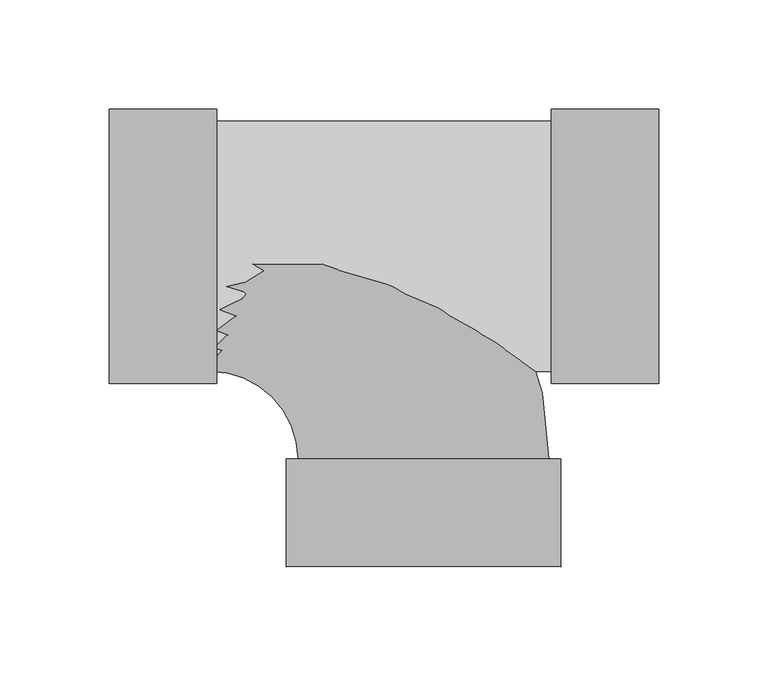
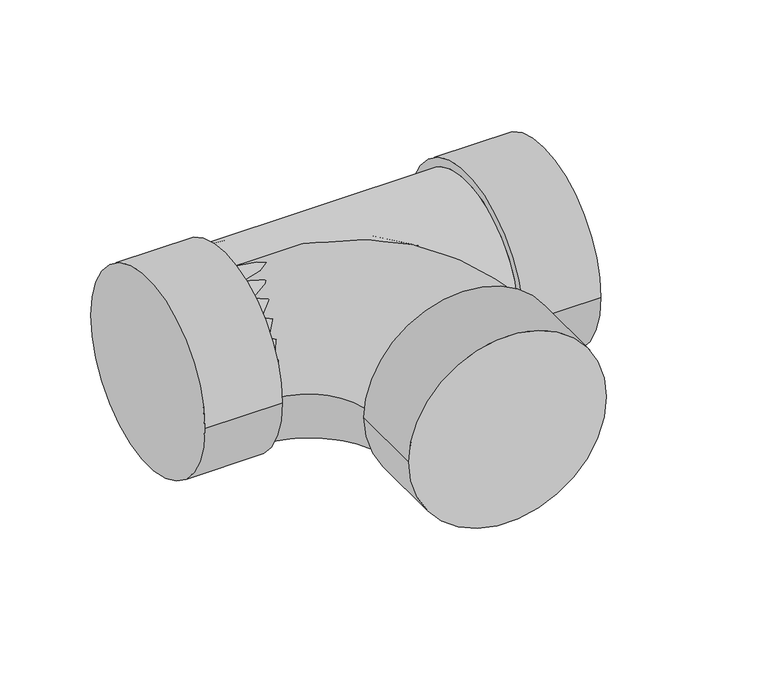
"""IFC4 building model written with IfcOpenShell, lengths in millimetres: pipe fitting geometry, M_Sanitario con te de reducción - PVC - Serie 40 - DWV : Estándar."""

from ifc_helpers import new_model, si_unit, point, frame, origin, place, context, project, spatial, circle_curve, ellipse_curve, trimmed, source, transform, mapped, element, save
from ifc_brep_helpers import plane_surface, cylinder_surface, revolved_surface, advanced_brep


def pipe_fitting_2a8dfbef(model_context):
    return source(origin(), model_context, "Body", "AdvancedBrep", [
        advanced_brep(
        [(58.601229, -62.8511094, 0.0), (58.601229, 62.8511094, 0.0), (58.601229, -57.3960625, 0.0), (58.601229, 57.3960625, 0.0), (107.8375415, -62.8511094, 0.0), (107.8375415, 62.8511094, 0.0), (-94.6584022, 57.3960625, 0.0), (-94.6584022, -57.3960625, 0.0), (-143.8947147, -62.8511094, 0.0), (-143.8947147, 62.8511094, 0.0), (-94.6584022, -62.8511094, 0.0), (-94.6584022, 62.8511094, 0.0)],
        [
            (0, 1, circle_curve(frame((58.601229, 0.0, 0.0), z_axis=(-1.0, 0.0, 0.0), x_axis=(0.0, 1.0, 0.0)), 62.8511094)),
            (1, 0, circle_curve(frame((58.601229, 0.0, 0.0), z_axis=(-1.0, 0.0, 0.0), x_axis=(0.0, 1.0, 0.0)), 62.8511094)),
            (2, 3, circle_curve(frame((58.601229, 0.0, 0.0), z_axis=(1.0, 0.0, 0.0), x_axis=(0.0, 0.0, -1.0)), 57.3960625)),
            (3, 2, circle_curve(frame((58.601229, 0.0, 0.0), z_axis=(1.0, 0.0, 0.0), x_axis=(0.0, 0.0, 1.0)), 57.3960625)),
            (4, 5, circle_curve(frame((107.8375415, 0.0, 0.0), z_axis=(1.0, 0.0, 0.0), x_axis=(0.0, 1.0, 0.0)), 62.8511094)),
            (5, 4, circle_curve(frame((107.8375415, 0.0, 0.0), z_axis=(1.0, 0.0, 0.0), x_axis=(0.0, 1.0, 0.0)), 62.8511094)),
            (0, 4),
            (5, 1),
            (6, 3),
            (2, 7),
            (7, 6, circle_curve(frame((-94.6584022, 0.0, 0.0), z_axis=(1.0, 0.0, 0.0), x_axis=(0.0, 0.0, -1.0)), 57.3960625)),
            (6, 7, circle_curve(frame((-94.6584022, 0.0, 0.0), z_axis=(1.0, 0.0, 0.0), x_axis=(0.0, 0.0, 1.0)), 57.3960625)),
            (8, 9, circle_curve(frame((-143.8947147, 0.0, 0.0), z_axis=(-1.0, 0.0, 0.0), x_axis=(0.0, 1.0, 0.0)), 62.8511094)),
            (9, 8, circle_curve(frame((-143.8947147, 0.0, 0.0), z_axis=(-1.0, 0.0, 0.0), x_axis=(0.0, 1.0, 0.0)), 62.8511094)),
            (10, 11, circle_curve(frame((-94.6584022, 0.0, 0.0), z_axis=(1.0, 0.0, 0.0), x_axis=(0.0, 1.0, 0.0)), 62.8511094)),
            (11, 10, circle_curve(frame((-94.6584022, 0.0, 0.0), z_axis=(1.0, 0.0, 0.0), x_axis=(0.0, 1.0, 0.0)), 62.8511094)),
            (8, 10),
            (11, 9),
        ],
        [
            plane_surface(frame((58.601229, 0.0, 0.0), z_axis=(-1.0, 0.0, 0.0), x_axis=(0.0, 0.0, 1.0))),
            plane_surface(frame((107.8375415, 0.0, 0.0), z_axis=(1.0, 0.0, 0.0), x_axis=(0.0, 0.0, 1.0))),
            cylinder_surface(frame((58.601229, 0.0, 0.0), z_axis=(-1.0, 0.0, 0.0), x_axis=(0.0, 1.0, 0.0)), 62.8511094),
            cylinder_surface(frame((-94.6584022, 0.0, 0.0), z_axis=(1.0, 0.0, 0.0), x_axis=(0.0, 0.0, -1.0)), 57.3960625),
            cylinder_surface(frame((-94.6584022, 0.0, 0.0), z_axis=(1.0, 0.0, 0.0), x_axis=(0.0, 0.0, 1.0)), 57.3960625),
            plane_surface(frame((-143.8947147, 0.0, 0.0), z_axis=(-1.0, 0.0, 0.0), x_axis=(0.0, 0.0, 1.0))),
            plane_surface(frame((-94.6584022, 0.0, 0.0), z_axis=(1.0, 0.0, 0.0), x_axis=(0.0, 0.0, 1.0))),
            cylinder_surface(frame((-143.8947147, 0.0, 0.0), z_axis=(-1.0, 0.0, 0.0), x_axis=(0.0, 1.0, 0.0)), 62.8511094),
        ],
        [
            (0, [[1, 2], [3, 4]]),
            (1, [[5, 6]]),
            (2, [[-1, 7, -6, 8]]),
            (2, [[-2, -8, -5, -7]]),
            (3, [[9, -3, 10, 11]]),
            (4, [[-9, 12, -10, -4]]),
            (5, [[13, 14]]),
            (6, [[15, 16], [-11, -12]]),
            (7, [[-13, 17, -16, 18]]),
            (7, [[-14, -18, -15, -17]]),
        ],
    ),
        advanced_brep(
        [(-62.8511094, -97.5796563, 0.0), (62.8511094, -97.5796563, 0.0), (57.3960625, -97.5796563, 0.0), (-57.3960625, -97.5796563, 0.0), (-62.8511094, -146.8159688, 0.0), (62.8511094, -146.8159688, 0.0), (-97.5796562, -57.3960625, 0.0), (-97.5796562, 57.3960625, 0.0)],
        [
            (0, 1, circle_curve(frame((0.0, -97.5796563, 0.0), z_axis=(0.0, 1.0, 0.0), x_axis=(1.0, 0.0, 0.0)), 62.8511094)),
            (1, 0, circle_curve(frame((0.0, -97.5796563, 0.0), z_axis=(0.0, 1.0, 0.0), x_axis=(1.0, 0.0, 0.0)), 62.8511094)),
            (2, 3, circle_curve(frame((0.0, -97.5796563, 0.0), z_axis=(0.0, -1.0, 0.0), x_axis=(1.0, 0.0, 0.0)), 57.3960625)),
            (3, 2, circle_curve(frame((0.0, -97.5796563, 0.0), z_axis=(0.0, -1.0, 0.0), x_axis=(1.0, 0.0, 0.0)), 57.3960625)),
            (4, 5, circle_curve(frame((0.0, -146.8159688, 0.0), z_axis=(0.0, -1.0, 0.0), x_axis=(1.0, 0.0, 0.0)), 62.8511094)),
            (5, 4, circle_curve(frame((0.0, -146.8159688, 0.0), z_axis=(0.0, -1.0, 0.0), x_axis=(1.0, 0.0, 0.0)), 62.8511094)),
            (0, 4),
            (5, 1),
            (6, 7, circle_curve(frame((-97.5796562, 0.0, 0.0), z_axis=(-1.0, 0.0, 0.0), x_axis=(0.0, 1.0, 0.0)), 57.3960625)),
            (7, 6, circle_curve(frame((-97.5796562, 0.0, 0.0), z_axis=(-1.0, 0.0, 0.0), x_axis=(0.0, 1.0, 0.0)), 57.3960625)),
            (6, 3, circle_curve(frame((-97.5796562, -97.5796563, 0.0), z_axis=(0.0, 0.0, -1.0), x_axis=(0.0, 1.0, 0.0)), 40.1835938)),
            (2, 7, circle_curve(frame((-97.5796562, -97.5796563, 0.0), z_axis=(0.0, 0.0, 1.0), x_axis=(0.0, 1.0, 0.0)), 154.9757188)),
        ],
        [
            plane_surface(frame((0.0, -97.5796563, 0.0), z_axis=(0.0, 1.0, 0.0), x_axis=(0.0, 0.0, 1.0))),
            plane_surface(frame((0.0, -146.8159688, 0.0), z_axis=(0.0, -1.0, 0.0), x_axis=(0.0, 0.0, 1.0))),
            cylinder_surface(frame((0.0, -97.5796563, 0.0), z_axis=(0.0, 1.0, 0.0), x_axis=(1.0, 0.0, 0.0)), 62.8511094),
            plane_surface(frame((-97.5796562, 0.0, 0.0), z_axis=(-1.0, 0.0, 0.0), x_axis=(0.0, 0.0, 1.0))),
            revolved_surface(trimmed(ellipse_curve(frame((-97.5796562, 0.0, 0.0), z_axis=(-1.0, 0.0, 0.0), x_axis=(0.0, 1.0, 0.0)), 57.3960625, 57.3960625), [point((-97.5796562, -57.3960625, 0.0))], [point((-97.5796562, 57.3960625, 0.0))], True, "CARTESIAN"), (-97.5796562, -97.5796563, 0.0), (0.0, 0.0, -1.0)),
            revolved_surface(trimmed(ellipse_curve(frame((-97.5796562, 0.0, 0.0), z_axis=(-1.0, 0.0, 0.0), x_axis=(0.0, 1.0, 0.0)), 57.3960625, 57.3960625), [point((-97.5796562, 57.3960625, 0.0))], [point((-97.5796562, -57.3960625, 0.0))], True, "CARTESIAN"), (-97.5796562, -97.5796563, 0.0), (0.0, 0.0, -1.0)),
        ],
        [
            (0, [[1, 2], [3, 4]]),
            (1, [[5, 6]]),
            (2, [[-1, 7, -6, 8]]),
            (2, [[-2, -8, -5, -7]]),
            (3, [[9, 10]]),
            (4, [[-9, 11, -3, 12]]),
            (5, [[-10, -12, -4, -11]]),
        ],
    ),
    ])


if __name__ == "__main__":
    model = new_model("IFC4")
    model_context = context("Model", 3, world=origin())
    ifc_project = project(units=[si_unit("LENGTHUNIT", "METRE", prefix="MILLI")], contexts=[model_context])
    site = spatial("IfcSite", under=ifc_project)
    building = spatial("IfcBuilding", under=site)
    placement = place(None, origin())
    pipe_fitting_shape = pipe_fitting_2a8dfbef(model_context)
    element("IfcPipeFitting", 1, ObjectType="M_Sanitario con te de reducción - PVC - Serie 40 - DWV : Estándar", at=placement, inside=building, context=model_context, shape_type="MappedRepresentation", body=[
        mapped(pipe_fitting_shape, transform((0.0, 0.0, 0.0), x_axis=(1.0, 0.0, 0.0), y_axis=(0.0, 1.0, 0.0), z_axis=(0.0, 0.0, 1.0))),
    ])
    save(model, "model.ifc")
